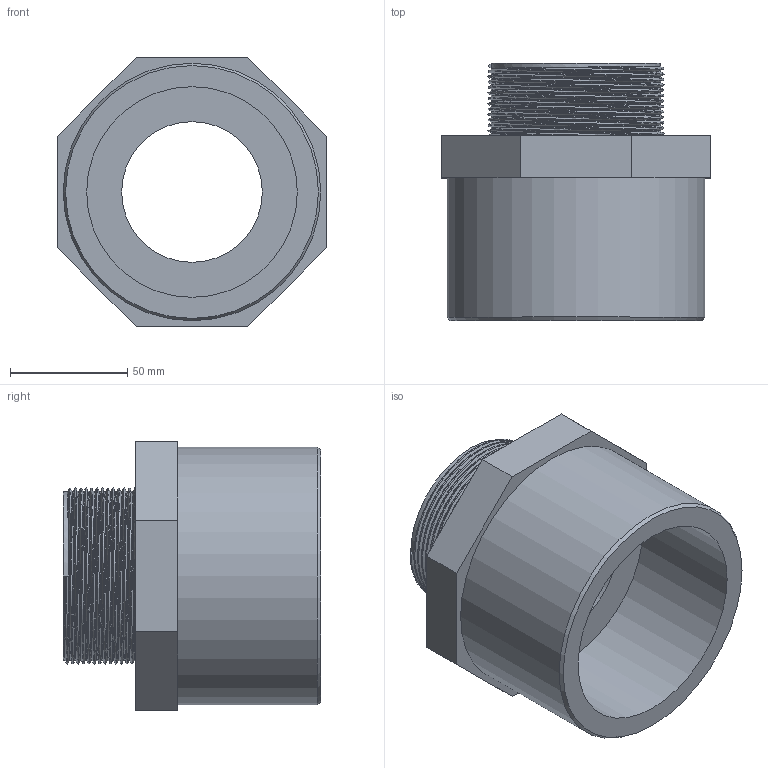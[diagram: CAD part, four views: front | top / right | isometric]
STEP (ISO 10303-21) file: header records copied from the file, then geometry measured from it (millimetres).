
FILE_DESCRIPTION(/* description */ ('PVC adattatore incollaggio-filettatura BSP maschio'),/* implementation_level */ '2;1');
FILE_NAME(/* name */ 'C:\Users\POLYPIPE\Desktop\DATASET INVENTOR\LIBRERIA EFFAST\RACCORDI 3DxWEB\RGR\3D_RGRAMG\3D_RGRAMG090H.stp',/* time_stamp */ '2018-01-19T17:37:23+01:00',/* author */ ('POLYPIPE'),/* organization */ ('Polypipe Italia s.r.l.'),/* preprocessor_version */ 'ST-DEVELOPER v16.1',/* originating_system */ 'Autodesk Inventor 2016',/* authorisation */ '');
FILE_SCHEMA (('CONFIG_CONTROL_DESIGN'));
Length unit declared in the file: millimetre
Products named in the file (1): 3D_RGRAMG
Bounding box: 115 x 110 x 115 mm (x, y, z)
Volume: 413124.8 mm3; surface area: 81541.6 mm2
Topology: 1 solids, 1 shells, 26 faces, 56 edges, 36 vertices
Faces by surface type: plane 15, cylinder 5, bspline 5, cone 1
Full cylindrical faces by diameter (mm): 60.1 x1, 61.1 x1, 72.226 x1, 90 x1, 110 x1
Entity records: 5571 total; most frequent: CARTESIAN_POINT 5018, ORIENTED_EDGE 102, DIRECTION 97, EDGE_CURVE 51, EDGE_LOOP 37, VERTEX_POINT 36, AXIS2_PLACEMENT_3D 35, LINE 27
